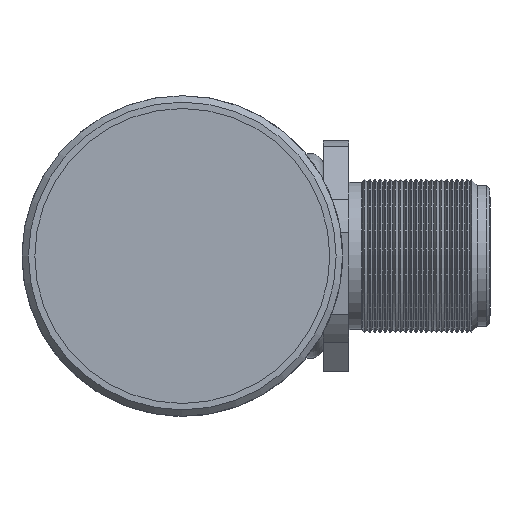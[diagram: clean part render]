
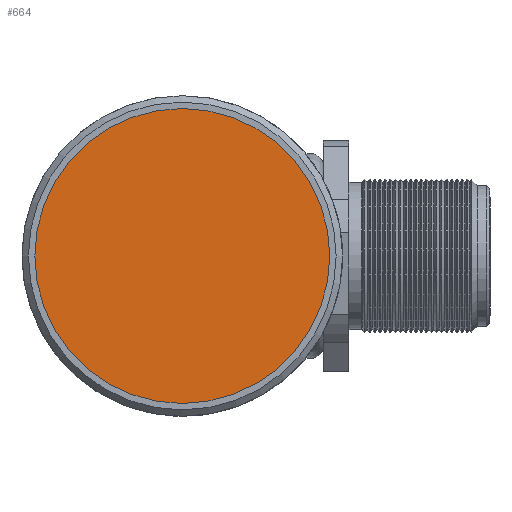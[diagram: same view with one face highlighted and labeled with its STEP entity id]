
A CAD part, left-side view. The second image highlights one B-rep face of the part: STEP entity #664.
In plain terms, the highlighted planar face has unit normal (-1, 0, 0).
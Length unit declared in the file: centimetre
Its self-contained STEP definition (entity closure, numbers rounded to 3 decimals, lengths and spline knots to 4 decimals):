
#625=CARTESIAN_POINT('',(-3.4,0.,1.15));
#626=VERTEX_POINT('',#625);
#633=CARTESIAN_POINT('',(-3.4,0.,-1.15));
#634=VERTEX_POINT('',#633);
#635=CARTESIAN_POINT('',(-3.4,0.,0.));
#636=DIRECTION('',(-1.,-0.,-0.));
#637=DIRECTION('',(0.,0.,-1.));
#638=AXIS2_PLACEMENT_3D('',#635,#636,#637);
#639=CIRCLE('',#638,1.15);
#640=EDGE_CURVE('',#634,#626,#639,.T.);
#642=CARTESIAN_POINT('',(-3.4,0.,0.));
#643=DIRECTION('',(-1.,-0.,-0.));
#644=DIRECTION('',(0.,0.,-1.));
#645=AXIS2_PLACEMENT_3D('',#642,#643,#644);
#646=CIRCLE('',#645,1.15);
#647=EDGE_CURVE('',#626,#634,#646,.T.);
#655=CARTESIAN_POINT('',(-3.4,0.,0.));
#656=DIRECTION('',(1.,0.,0.));
#657=DIRECTION('',(0.,0.,-1.));
#658=AXIS2_PLACEMENT_3D('',#655,#656,#657);
#659=PLANE('',#658);
#660=ORIENTED_EDGE('',*,*,#640,.T.);
#661=ORIENTED_EDGE('',*,*,#647,.T.);
#662=EDGE_LOOP('',(#660,#661));
#663=FACE_BOUND('',#662,.T.);
#664=ADVANCED_FACE('',(#663),#659,.F.);
